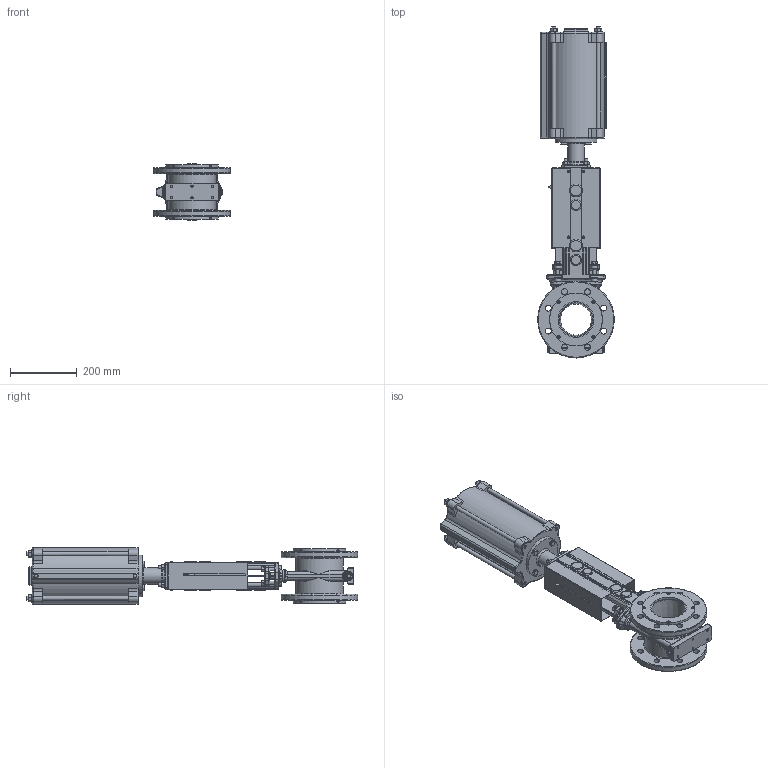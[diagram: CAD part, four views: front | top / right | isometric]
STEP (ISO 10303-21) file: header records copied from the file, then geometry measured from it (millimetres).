
FILE_DESCRIPTION(/* description */ (''),/* implementation_level */ '2;1');
FILE_NAME(/* name */ 'F:\Emir\3D-block special\SLV\SLF-DN100-PN10-FRSC160-165-LDR.stp',/* time_stamp */ '2018-10-15T11:12:09+02:00',/* author */ ('emimus'),/* organization */ (''),/* preprocessor_version */ 'ST-DEVELOPER v17.2',/* originating_system */ 'Autodesk Inventor 2019',/* authorisation */ '');
FILE_SCHEMA (('CONFIG_CONTROL_DESIGN'));
Products named in the file (1): SLF-DN100-PN10-FRSC160-165-LDR_Shrinkwrap_1
Bounding box: 230 x 994.5 x 170 mm (x, y, z)
Volume: 6049588.5 mm3; surface area: 1656373.2 mm2
Topology: 1 solids, 1 shells, 2429 faces, 6316 edges, 3974 vertices
Faces by surface type: plane 954, cylinder 616, cone 279, bspline 271, torus 239, sphere 70
Full cylindrical faces by diameter (mm): 3.5 x8, 3.6 x8, 4 x6, 4.134 x4, 4.5 x4, 6 x1, 6.75 x6, 8 x2, 8.376 x2, 8.5 x8, 8.88 x1, 9 x2, 9.5 x4, 10 x31, 10.5 x8, 11 x4, 11.445 x2, 12 x14, 13 x7, 14.63 x4, 15 x4, 16 x2, 17.7 x1, 18 x20, 19 x4, 20 x9, 20.5 x1, 23 x4, 24 x8, 25.8 x2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
Entity records: 95438 total; most frequent: CARTESIAN_POINT 36955, ORIENTED_EDGE 12502, DIRECTION 12416, EDGE_CURVE 6251, AXIS2_PLACEMENT_3D 5163, VERTEX_POINT 3974, EDGE_LOOP 2721, CIRCLE 2681
